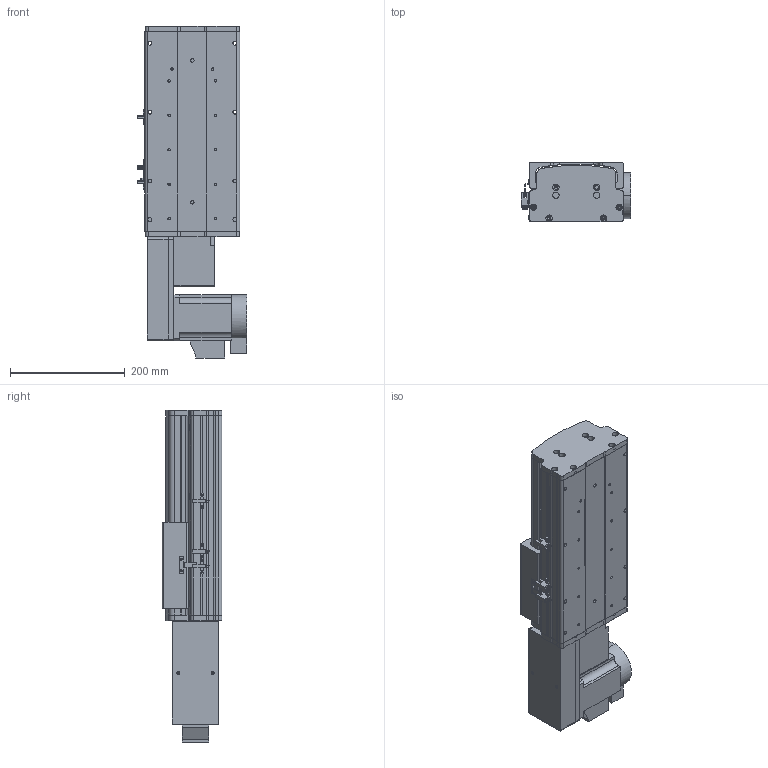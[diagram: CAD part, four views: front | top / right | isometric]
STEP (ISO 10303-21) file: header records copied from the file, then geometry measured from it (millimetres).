
FILE_DESCRIPTION (( 'STEP AP214' ), '1' );
FILE_NAME ('KSD165B-S100-MLB-CM.STEP', '2017-10-16T05:42:10', ( '微软用户' ), ( '微软中国' ), 'SwSTEP 2.0', 'SolidWorks 2014', '' );
FILE_SCHEMA (( 'AUTOMOTIVE_DESIGN' ));
Length unit declared in the file: millimetre
Products named in the file (18): KSD165B-S100-MLB-CM; HTPA26S5M250-A-H8 750W萇儂蚚; HTPA26S5M250-A-H8 400W萇儂蚚 ; 130宽模组马达安装板连板左右折同步带; 130宽模组保护罩上下左右折-同步带; 165宽马达安装板同步带左-改; KSD165模组-同步带防尘盖1-100行程-最新版; KSD165模组同步带底板-100行程-最新; KSD165B-EGH20CA絳寢-肮祭湍100俴最; 拸秶雄ん750W侜督萇儂; U倰嫖萇假蚾璃; U倰嫖萇EEㄜSX672; 覜茼え68遵圉猾敕; KSD165模组-同步带-防撞垫2; KSD165模组同步带-防撞垫1; KSD165耀郪-ヶ傷啣1-肮祭湍; KSD165模组-后端板1-同步带; KSD165模组-同步带滑动座-最新版
Assembly tree (21 placements, depth 2):
  KSD165B-S100-MLB-CM
    KSD165模组-同步带滑动座-最新版
    KSD165模组-后端板1-同步带
    KSD165耀郪-ヶ傷啣1-肮祭湍
    KSD165模组同步带-防撞垫1
    KSD165模组-同步带-防撞垫2
    覜茼え68遵圉猾敕
    U倰嫖萇EEㄜSX672  x3
    U倰嫖萇假蚾璃  x3
    拸秶雄ん750W侜督萇儂
    KSD165B-EGH20CA絳寢-肮祭湍100俴最
    KSD165模组同步带底板-100行程-最新
    KSD165模组-同步带防尘盖1-100行程-最新版
    165宽马达安装板同步带左-改
    130宽模组保护罩上下左右折-同步带
    130宽模组马达安装板连板左右折同步带
    HTPA26S5M250-A-H8 400W萇儂蚚 
    HTPA26S5M250-A-H8 750W萇儂蚚
Bounding box: 191.2 x 104 x 578 mm (x, y, z)
Volume: 4022440.1 mm3; surface area: 933157.2 mm2
Topology: 24 solids, 25 shells, 2077 faces, 5826 edges, 3792 vertices
Faces by surface type: cylinder 1201, plane 744, cone 128, bspline 4
Entity records: 68884 total; most frequent: CARTESIAN_POINT 13897, DIRECTION 10912, ORIENTED_EDGE 10280, EDGE_CURVE 5140, AXIS2_PLACEMENT_3D 4145, VERTEX_POINT 3384, LINE 2622, VECTOR 2622
